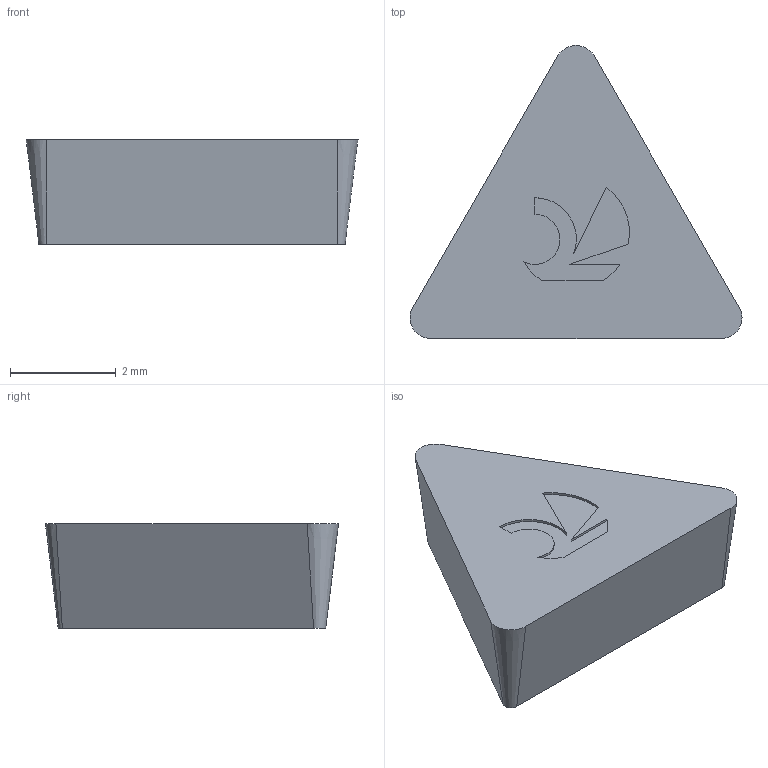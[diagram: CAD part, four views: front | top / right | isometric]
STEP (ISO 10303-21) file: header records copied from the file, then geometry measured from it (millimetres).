
FILE_DESCRIPTION(('no description'),'unknown implementation level');
FILE_NAME('solidpmtPg_s9j87vz6emsjU3HAI2ulU_1.STP',' ',('CIMSOURCE GmbH'),('CADClick - KiM GmbH - www.kimweb.de'),'unknown preprocess','ACIS','unknown authorization');
FILE_SCHEMA(('automotive_design'));
Length unit declared in the file: millimetre
Products named in the file (1): CUT
Bounding box: 6.29 x 5.56 x 1.98 mm (x, y, z)
Volume: 35.3 mm3; surface area: 72.7 mm2
Topology: 1 solids, 1 shells, 20 faces, 51 edges, 34 vertices
Faces by surface type: plane 11, cylinder 6, cone 3
Entity records: 1232 total; most frequent: DIRECTION 115, CARTESIAN_POINT 108, STYLED_ITEM 106, PRESENTATION_STYLE_ASSIGNMENT 106, COLOUR_RGB 106, ORIENTED_EDGE 102, EDGE_CURVE 51, CURVE_STYLE 51
